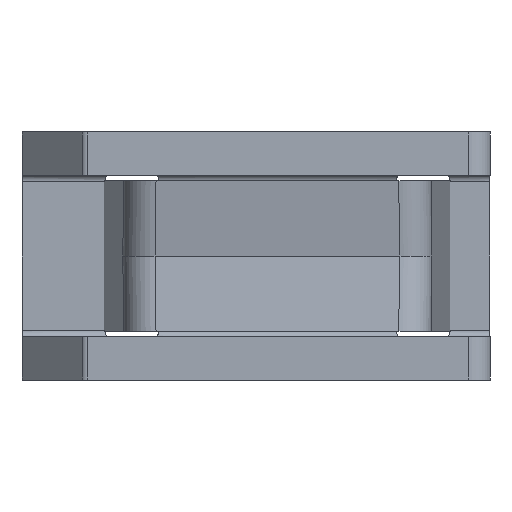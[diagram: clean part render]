
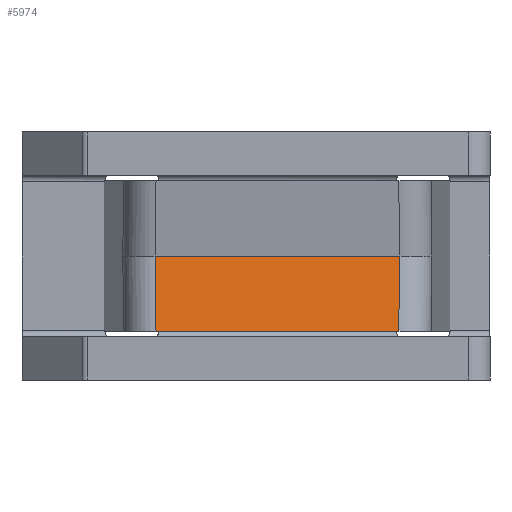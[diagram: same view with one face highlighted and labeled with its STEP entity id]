
A CAD part, front view. The second image highlights one B-rep face of the part: STEP entity #5974.
In plain terms, the highlighted planar face has unit normal (0, -0.99, 0.141).
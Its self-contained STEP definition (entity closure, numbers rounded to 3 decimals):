
#51 = EDGE_LOOP ( 'NONE', ( #6889, #7385, #1390, #1620 ) ) ;
#384 = FACE_OUTER_BOUND ( 'NONE', #51, .T. ) ;
#486 = LINE ( 'NONE', #2364, #6648 ) ;
#526 = VERTEX_POINT ( 'NONE', #551 ) ;
#551 = CARTESIAN_POINT ( 'NONE',  ( 17.467, -13.495, -3.5 ) ) ;
#1365 = VECTOR ( 'NONE', #7452, 1000. ) ;
#1390 = ORIENTED_EDGE ( 'NONE', *, *, #2048, .F. ) ;
#1620 = ORIENTED_EDGE ( 'NONE', *, *, #6494, .F. ) ;
#1691 = CARTESIAN_POINT ( 'NONE',  ( 17.512, -12.995, 0. ) ) ;
#2016 = CARTESIAN_POINT ( 'NONE',  ( 3.591, -12.995, 0. ) ) ;
#2048 = EDGE_CURVE ( 'NONE', #526, #4855, #486, .T. ) ;
#2286 = VECTOR ( 'NONE', #6501, 1000. ) ;
#2364 = CARTESIAN_POINT ( 'NONE',  ( 4.587, -13.495, -3.5 ) ) ;
#2651 = VECTOR ( 'NONE', #3693, 1000. ) ;
#3693 = DIRECTION ( 'NONE',  ( 1., 0., 0. ) ) ;
#3963 = DIRECTION ( 'NONE',  ( 0., 0.99, -0.141 ) ) ;
#4146 = CARTESIAN_POINT ( 'NONE',  ( 6.214, -13.495, -3.5 ) ) ;
#4855 = VERTEX_POINT ( 'NONE', #4146 ) ;
#4964 = EDGE_CURVE ( 'NONE', #7079, #7464, #5161, .T. ) ;
#5030 = CARTESIAN_POINT ( 'NONE',  ( 3.591, -12.995, 0. ) ) ;
#5161 = LINE ( 'NONE', #5030, #2651 ) ;
#5306 = LINE ( 'NONE', #6218, #1365 ) ;
#5913 = CARTESIAN_POINT ( 'NONE',  ( 6.169, -12.995, 0. ) ) ;
#5915 = LINE ( 'NONE', #7173, #2286 ) ;
#5974 = ADVANCED_FACE ( 'NONE', ( #384 ), #7826, .F. ) ;
#6218 = CARTESIAN_POINT ( 'NONE',  ( 17.512, -12.995, 0. ) ) ;
#6494 = EDGE_CURVE ( 'NONE', #7464, #526, #5306, .T. ) ;
#6501 = DIRECTION ( 'NONE',  ( -0.013, 0.141, 0.99 ) ) ;
#6648 = VECTOR ( 'NONE', #7463, 1000. ) ;
#6889 = ORIENTED_EDGE ( 'NONE', *, *, #4964, .F. ) ;
#7079 = VERTEX_POINT ( 'NONE', #5913 ) ;
#7173 = CARTESIAN_POINT ( 'NONE',  ( 6.101, -12.23, 5.351 ) ) ;
#7179 = DIRECTION ( 'NONE',  ( 0., 0.141, 0.99 ) ) ;
#7209 = AXIS2_PLACEMENT_3D ( 'NONE', #2016, #3963, #7179 ) ;
#7385 = ORIENTED_EDGE ( 'NONE', *, *, #7875, .F. ) ;
#7452 = DIRECTION ( 'NONE',  ( -0.013, -0.141, -0.99 ) ) ;
#7463 = DIRECTION ( 'NONE',  ( -1., 0., 0. ) ) ;
#7464 = VERTEX_POINT ( 'NONE', #1691 ) ;
#7826 = PLANE ( 'NONE',  #7209 ) ;
#7875 = EDGE_CURVE ( 'NONE', #4855, #7079, #5915, .T. ) ;
